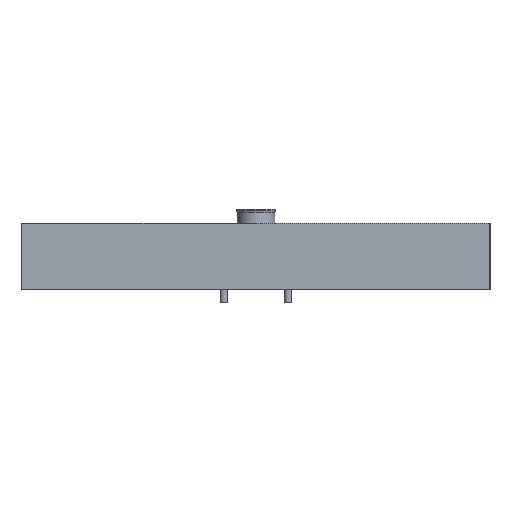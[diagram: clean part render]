
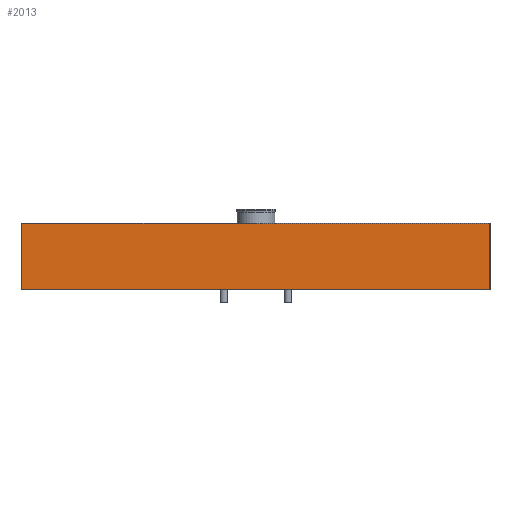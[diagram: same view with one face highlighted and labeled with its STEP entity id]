
A CAD part, left-side view. The second image highlights one B-rep face of the part: STEP entity #2013.
In plain terms, the highlighted planar face has unit normal (-1, 0, 0).
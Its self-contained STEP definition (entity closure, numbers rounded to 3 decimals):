
#2013=ADVANCED_FACE('',(#5341),#5342,.F.);
#5341=FACE_OUTER_BOUND('',#10628,.T.);
#5342=PLANE('',#10629);
#10628=EDGE_LOOP('',(#19869,#19870,#19871,#19872));
#10629=AXIS2_PLACEMENT_3D('',#19873,#19874,#19875);
#19869=ORIENTED_EDGE('',*,*,#32861,.T.);
#19870=ORIENTED_EDGE('',*,*,#32862,.F.);
#19871=ORIENTED_EDGE('',*,*,#32863,.F.);
#19872=ORIENTED_EDGE('',*,*,#32864,.T.);
#19873=CARTESIAN_POINT('',(-348.0,248.0,70.0));
#19874=DIRECTION('',(1.0,0.0,0.0));
#19875=DIRECTION('',(0.0,1.0,0.0));
#32861=EDGE_CURVE('',#38366,#38367,#38368,.T.);
#32862=EDGE_CURVE('',#38369,#38367,#38370,.T.);
#32863=EDGE_CURVE('',#38371,#38369,#38372,.T.);
#32864=EDGE_CURVE('',#38371,#38366,#38373,.T.);
#38366=VERTEX_POINT('',#46527);
#38367=VERTEX_POINT('',#46528);
#38368=LINE('',#46529,#46530);
#38369=VERTEX_POINT('',#46531);
#38370=LINE('',#46532,#46533);
#38371=VERTEX_POINT('',#46534);
#38372=LINE('',#46535,#46536);
#38373=LINE('',#46537,#46538);
#46527=CARTESIAN_POINT('',(-348.0,248.0,0.0));
#46528=CARTESIAN_POINT('',(-348.0,-248.0,0.0));
#46529=CARTESIAN_POINT('',(-348.0,248.0,0.0));
#46530=VECTOR('',#59577,1.0);
#46531=CARTESIAN_POINT('',(-348.0,-248.0,70.0));
#46532=CARTESIAN_POINT('',(-348.0,-248.0,70.0));
#46533=VECTOR('',#59578,1.0);
#46534=CARTESIAN_POINT('',(-348.0,248.0,70.0));
#46535=CARTESIAN_POINT('',(-348.0,248.0,70.0));
#46536=VECTOR('',#59579,1.0);
#46537=CARTESIAN_POINT('',(-348.0,248.0,70.0));
#46538=VECTOR('',#59580,1.0);
#59577=DIRECTION('',(0.0,-1.0,0.0));
#59578=DIRECTION('',(0.0,0.0,-1.0));
#59579=DIRECTION('',(0.0,-1.0,0.0));
#59580=DIRECTION('',(0.0,0.0,-1.0));
